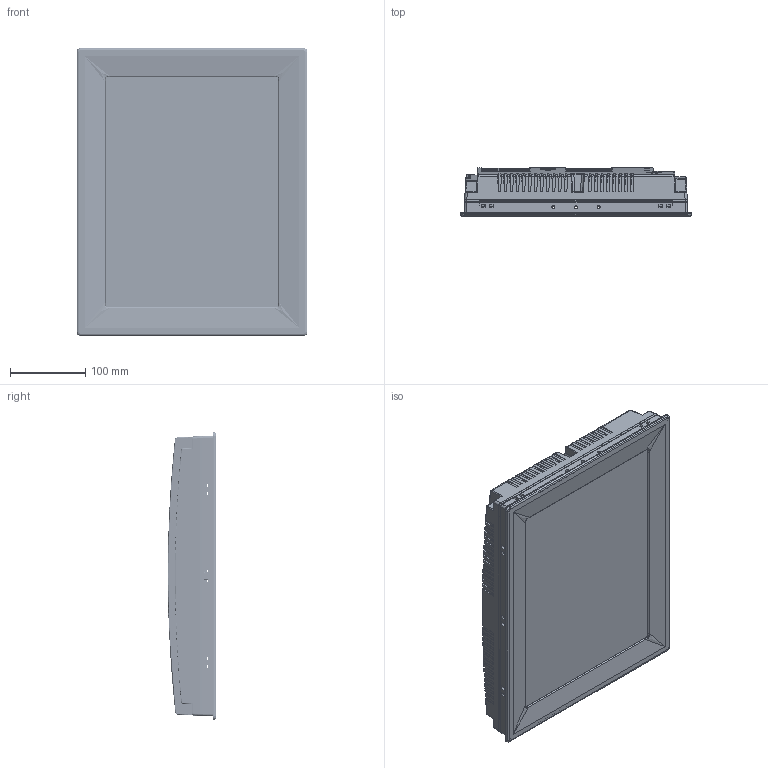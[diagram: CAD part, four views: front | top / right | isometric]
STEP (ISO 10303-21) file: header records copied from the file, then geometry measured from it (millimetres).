
FILE_DESCRIPTION((''),'2;1');
FILE_NAME('CU_TPC-2515','2010-09-24T',('stgill'),(''),'PRO/ENGINEER BY PARAMETRIC TECHNOLOGY CORPORATION, 2006510','PRO/ENGINEER BY PARAMETRIC TECHNOLOGY CORPORATION, 2006510','');
FILE_SCHEMA(('CONFIG_CONTROL_DESIGN'));
Products named in the file (1): CU_TPC-2515
Bounding box: 307 x 64.5 x 383 mm (x, y, z)
Volume: 719735.5 mm3; surface area: 1236179.6 mm2
Topology: 8 solids, 40 shells, 5310 faces, 15533 edges, 10410 vertices
Faces by surface type: plane 3354, cylinder 1414, bspline 234, cone 161, torus 99, extrusion 32, sphere 8, revolution 8
Entity records: 193320 total; most frequent: CARTESIAN_POINT 52915, ORIENTED_EDGE 30747, DIRECTION 26515, EDGE_CURVE 15504, VECTOR 10475, LINE 10443, VERTEX_POINT 10410, AXIS2_PLACEMENT_3D 8016
